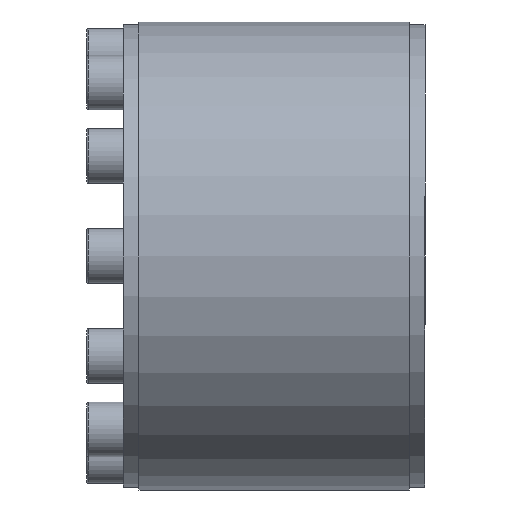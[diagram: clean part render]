
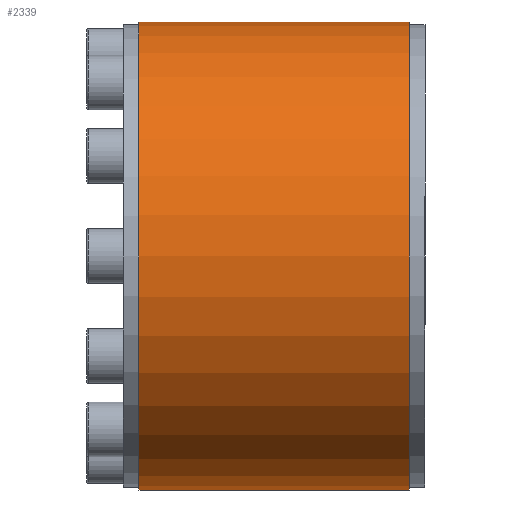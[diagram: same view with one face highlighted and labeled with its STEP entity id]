
A CAD part, left-side view. The second image highlights one B-rep face of the part: STEP entity #2339.
In plain terms, the highlighted cylindrical face has radius 90 mm (diameter 180 mm), a partial arc.
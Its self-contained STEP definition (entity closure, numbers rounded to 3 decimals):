
#32 = ORIENTED_EDGE ( 'NONE', *, *, #2253, .T. ) ;
#56 = CARTESIAN_POINT ( 'NONE',  ( 0., 0., 0. ) ) ;
#120 = CARTESIAN_POINT ( 'NONE',  ( 0., 0., 90. ) ) ;
#145 = VERTEX_POINT ( 'NONE', #3773 ) ;
#208 = ORIENTED_EDGE ( 'NONE', *, *, #1213, .F. ) ;
#225 = VECTOR ( 'NONE', #2433, 1000. ) ;
#516 = EDGE_LOOP ( 'NONE', ( #208, #32, #3068, #2177 ) ) ;
#698 = DIRECTION ( 'NONE',  ( 0., -1., 0. ) ) ;
#772 = FACE_OUTER_BOUND ( 'NONE', #516, .T. ) ;
#1031 = CARTESIAN_POINT ( 'NONE',  ( 0., -52., 0. ) ) ;
#1213 = EDGE_CURVE ( 'NONE', #2785, #3418, #4037, .T. ) ;
#1399 = VERTEX_POINT ( 'NONE', #1967 ) ;
#1858 = DIRECTION ( 'NONE',  ( 0., -1., 0. ) ) ;
#1927 = AXIS2_PLACEMENT_3D ( 'NONE', #3830, #698, #3476 ) ;
#1967 = CARTESIAN_POINT ( 'NONE',  ( 0., -52., -90. ) ) ;
#2106 = DIRECTION ( 'NONE',  ( 0., -1., 0. ) ) ;
#2177 = ORIENTED_EDGE ( 'NONE', *, *, #2897, .F. ) ;
#2244 = AXIS2_PLACEMENT_3D ( 'NONE', #56, #2106, #3464 ) ;
#2253 = EDGE_CURVE ( 'NONE', #2785, #145, #3600, .T. ) ;
#2289 = CARTESIAN_POINT ( 'NONE',  ( 0., -52., 90. ) ) ;
#2339 = ADVANCED_FACE ( 'NONE', ( #772 ), #4305, .T. ) ;
#2433 = DIRECTION ( 'NONE',  ( 0., -1., 0. ) ) ;
#2479 = CARTESIAN_POINT ( 'NONE',  ( 0., 0., -90. ) ) ;
#2730 = CIRCLE ( 'NONE', #4277, 90. ) ;
#2785 = VERTEX_POINT ( 'NONE', #4363 ) ;
#2897 = EDGE_CURVE ( 'NONE', #3418, #1399, #2730, .T. ) ;
#3050 = DIRECTION ( 'NONE',  ( 0., -1., 0. ) ) ;
#3068 = ORIENTED_EDGE ( 'NONE', *, *, #3097, .T. ) ;
#3097 = EDGE_CURVE ( 'NONE', #145, #1399, #3141, .T. ) ;
#3141 = LINE ( 'NONE', #2479, #225 ) ;
#3418 = VERTEX_POINT ( 'NONE', #2289 ) ;
#3464 = DIRECTION ( 'NONE',  ( 0., 0., -1. ) ) ;
#3476 = DIRECTION ( 'NONE',  ( 0., 0., -1. ) ) ;
#3495 = VECTOR ( 'NONE', #1858, 1000. ) ;
#3600 = CIRCLE ( 'NONE', #1927, 90. ) ;
#3773 = CARTESIAN_POINT ( 'NONE',  ( 0., 52., -90. ) ) ;
#3830 = CARTESIAN_POINT ( 'NONE',  ( 0., 52., 0. ) ) ;
#4037 = LINE ( 'NONE', #120, #3495 ) ;
#4079 = DIRECTION ( 'NONE',  ( 0., 0., -1. ) ) ;
#4277 = AXIS2_PLACEMENT_3D ( 'NONE', #1031, #3050, #4079 ) ;
#4305 = CYLINDRICAL_SURFACE ( 'NONE', #2244, 90. ) ;
#4363 = CARTESIAN_POINT ( 'NONE',  ( 0., 52., 90. ) ) ;
